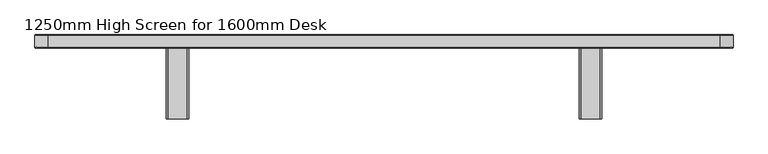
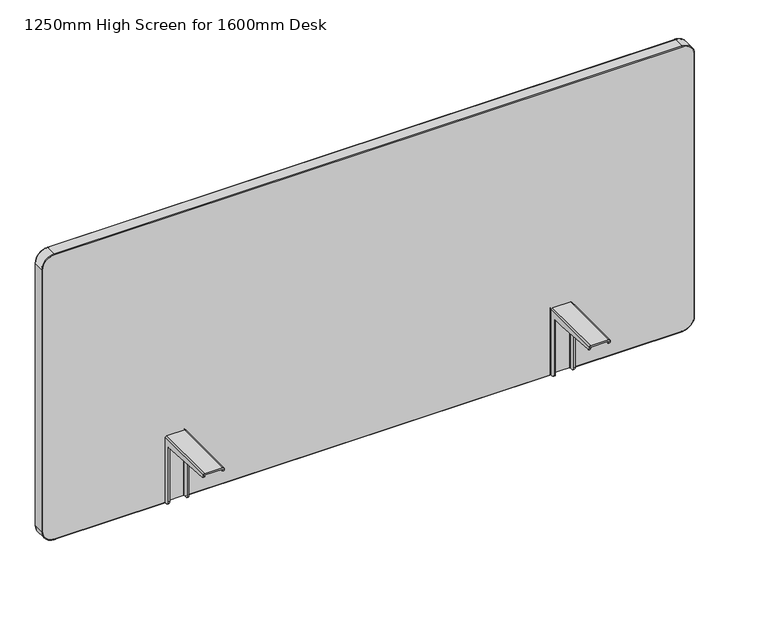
"""IFC4 building model written with IfcOpenShell, lengths in millimetres: furniture geometry, DBLTD_TheSenatorGroup_OffcDsks_Workbase_Single_FabricScreen : 1250mm High Screen for 1600mm Desk."""

from ifc_helpers import new_model, si_unit, point, frame, origin, place, context, project, spatial, polyline, circle_curve, ellipse_curve, trimmed, source, transform, mapped, element, save
from ifc_brep_helpers import plane_surface, cylinder_surface, revolved_surface, advanced_brep


def furniture_1250mm_high_screen_for_1600mm_desk_d27042e6(model_context):
    return source(origin(), model_context, "Body", "AdvancedBrep", [
        advanced_brep(
        [(515.4999924, 810.0117826, 692.2500534), (518.4999924, 810.0117826, 695.2500534), (562.4536863, 810.0117826, 695.2500534), (565.4536863, 810.0117826, 692.2500534), (565.4536863, 810.0117826, 527.4999888), (830.5, 810.0117826, 527.4999888), (858.5, 810.0117826, 555.4999888), (858.5, 810.0117826, 1219.9999888), (830.5, 810.0117826, 1247.9999888), (-675.5, 810.0117826, 1247.9999888), (-703.5, 810.0117826, 1219.9999888), (-703.5, 810.0117826, 555.4999888), (-675.5, 810.0117826, 527.4999888), (-410.4536863, 810.0117826, 527.4999888), (-410.4536863, 810.0117826, 692.2500534), (-407.4536863, 810.0117826, 695.2500534), (-363.4999924, 810.0117826, 695.2500534), (-360.4999924, 810.0117826, 692.2500534), (-360.4999924, 810.0117826, 527.4999888), (515.4999924, 810.0117826, 527.4999888), (858.5, 840.0117886, 555.4999888), (830.5, 840.0117886, 527.4999888), (-675.5, 840.0117886, 527.4999888), (-703.5, 840.0117886, 555.4999888), (-703.5, 840.0117886, 1219.9999888), (-675.5, 840.0117886, 1247.9999888), (830.5, 840.0117886, 1247.9999888), (858.5, 840.0117886, 1219.9999888), (830.5, 812.0117759, 1249.9999888), (830.5, 838.0117886, 1249.9999888), (-675.5, 838.0117886, 1249.9999888), (-675.5, 812.0117826, 1249.9999888), (-705.5, 838.0117886, 1219.9999888), (-705.5, 812.0117772, 1219.9999888), (-705.5, 838.0117886, 555.4999888), (-705.5, 812.0117826, 555.4999888), (-675.5, 838.0117886, 525.4999888), (-675.5, 812.0117813, 525.4999888), (830.5, 812.0117782, 525.4999888), (830.5, 838.0117886, 525.4999888), (860.5, 838.0117886, 555.4999888), (860.5, 812.0117789, 555.4999888), (860.5, 838.0117886, 1219.9999888), (860.5, 812.0117826, 1219.9999888), (565.4536863, 816.0117817, 525.4999888), (515.4999924, 816.0117817, 525.4999888), (515.4999924, 812.0117826, 525.4999888), (-360.4999924, 812.0117826, 525.4999888), (-360.4999924, 816.0117817, 525.4999888), (-410.4536863, 816.0117817, 525.4999888), (-410.4536863, 812.0117826, 525.4999888), (565.4536863, 812.0117826, 525.4999888), (565.4536863, 816.0117817, 692.2500534), (562.4536863, 816.0117817, 695.2500534), (518.4999924, 816.0117817, 695.2500534), (515.4999924, 816.0117817, 692.2500534), (-360.4999924, 816.0117817, 692.2500534), (-363.4999924, 816.0117817, 695.2500534), (-407.4536863, 816.0117817, 695.2500534), (-410.4536863, 816.0117817, 692.2500534)],
        [
            (0, 1, circle_curve(frame((518.4999924, 810.0117826, 692.2500534), z_axis=(0.0, 1.0, 0.0), x_axis=(-1.0, 0.0, 0.0)), 3.0)),
            (1, 2),
            (2, 3, circle_curve(frame((562.4536863, 810.0117826, 692.2500534), z_axis=(0.0, 1.0, 0.0), x_axis=(-1.0, 0.0, 0.0)), 3.0)),
            (3, 4),
            (4, 5),
            (5, 6, circle_curve(frame((830.5, 810.0117826, 555.4999888), z_axis=(0.0, -1.0, 0.0), x_axis=(0.0, 0.0, -1.0)), 28.0)),
            (6, 7),
            (7, 8, circle_curve(frame((830.5, 810.0117826, 1219.9999888), z_axis=(0.0, -1.0, 0.0), x_axis=(1.0, 0.0, 0.0)), 28.0)),
            (8, 9),
            (9, 10, circle_curve(frame((-675.5, 810.0117826, 1219.9999888), z_axis=(0.0, -1.0, 0.0), x_axis=(0.0, 0.0, 1.0)), 28.0)),
            (10, 11),
            (11, 12, circle_curve(frame((-675.5, 810.0117826, 555.4999888), z_axis=(0.0, -1.0, 0.0), x_axis=(-1.0, 0.0, 0.0)), 28.0)),
            (12, 13),
            (13, 14),
            (14, 15, circle_curve(frame((-407.4536863, 810.0117826, 692.2500534), z_axis=(0.0, 1.0, 0.0), x_axis=(1.0, 0.0, 0.0)), 3.0)),
            (15, 16),
            (16, 17, circle_curve(frame((-363.4999924, 810.0117826, 692.2500534), z_axis=(0.0, 1.0, 0.0), x_axis=(1.0, 0.0, 0.0)), 3.0)),
            (17, 18),
            (18, 19),
            (19, 0),
            (20, 21, circle_curve(frame((830.5, 840.0117886, 555.4999888), z_axis=(0.0, 1.0, 0.0), x_axis=(0.0, 0.0, -1.0)), 28.0)),
            (21, 22),
            (22, 23, circle_curve(frame((-675.5, 840.0117886, 555.4999888), z_axis=(0.0, 1.0, 0.0), x_axis=(-1.0, 0.0, 0.0)), 28.0)),
            (23, 24),
            (24, 25, circle_curve(frame((-675.5, 840.0117886, 1219.9999888), z_axis=(0.0, 1.0, 0.0), x_axis=(0.0, 0.0, 1.0)), 28.0)),
            (25, 26),
            (26, 27, circle_curve(frame((830.5, 840.0117886, 1219.9999888), z_axis=(0.0, 1.0, 0.0), x_axis=(1.0, 0.0, 0.0)), 28.0)),
            (27, 20),
            (28, 29),
            (29, 30),
            (30, 31),
            (31, 28),
            (30, 32, circle_curve(frame((-675.5, 838.0117886, 1219.9999888), z_axis=(0.0, -1.0, 0.0), x_axis=(1.0, 0.0, 0.0)), 30.0)),
            (32, 33),
            (33, 31, circle_curve(frame((-675.5, 812.0117826, 1219.9999888), z_axis=(0.0, 1.0, 0.0), x_axis=(1.0, 0.0, 0.0)), 30.0)),
            (32, 34),
            (34, 35),
            (35, 33),
            (34, 36, circle_curve(frame((-675.5, 838.0117886, 555.4999888), z_axis=(0.0, -1.0, 0.0), x_axis=(1.0, 0.0, 0.0)), 30.0)),
            (36, 37),
            (37, 35, circle_curve(frame((-675.5, 812.0117826, 555.4999888), z_axis=(0.0, 1.0, 0.0), x_axis=(1.0, 0.0, 0.0)), 30.0)),
            (38, 39),
            (39, 40, circle_curve(frame((830.5, 838.0117886, 555.4999888), z_axis=(0.0, -1.0, 0.0), x_axis=(1.0, 0.0, 0.0)), 30.0)),
            (40, 41),
            (41, 38, circle_curve(frame((830.5, 812.0117826, 555.4999888), z_axis=(0.0, 1.0, 0.0), x_axis=(1.0, 0.0, 0.0)), 30.0)),
            (40, 42),
            (42, 43),
            (43, 41),
            (28, 43, circle_curve(frame((830.5, 812.0117826, 1219.9999888), z_axis=(0.0, 1.0, 0.0), x_axis=(1.0, 0.0, 0.0)), 30.0)),
            (42, 29, circle_curve(frame((830.5, 838.0117886, 1219.9999888), z_axis=(0.0, -1.0, 0.0), x_axis=(1.0, 0.0, 0.0)), 30.0)),
            (44, 45),
            (45, 46),
            (46, 47),
            (47, 48),
            (48, 49),
            (49, 50),
            (50, 37),
            (36, 39),
            (38, 51),
            (51, 44),
            (44, 52),
            (52, 53, circle_curve(frame((562.4536863, 816.0117817, 692.2500534), z_axis=(0.0, -1.0, 0.0), x_axis=(-1.0, 0.0, 0.0)), 3.0)),
            (53, 54),
            (54, 55, circle_curve(frame((518.4999924, 816.0117817, 692.2500534), z_axis=(0.0, -1.0, 0.0), x_axis=(-1.0, 0.0, 0.0)), 3.0)),
            (55, 45),
            (55, 0),
            (19, 46, circle_curve(frame((515.4999924, 812.0117826, 527.4999888), z_axis=(1.0, 0.0, 0.0), x_axis=(0.0, 1.0, 0.0)), 2.0)),
            (54, 1),
            (53, 2),
            (52, 3),
            (51, 4, circle_curve(frame((565.4536863, 812.0117826, 527.4999888), z_axis=(-1.0, 0.0, 0.0), x_axis=(0.0, 1.0, 0.0)), 2.0)),
            (48, 56),
            (56, 57, circle_curve(frame((-363.4999924, 816.0117817, 692.2500534), z_axis=(0.0, -1.0, 0.0), x_axis=(1.0, 0.0, 0.0)), 3.0)),
            (57, 58),
            (58, 59, circle_curve(frame((-407.4536863, 816.0117817, 692.2500534), z_axis=(0.0, -1.0, 0.0), x_axis=(1.0, 0.0, 0.0)), 3.0)),
            (59, 49),
            (47, 18, circle_curve(frame((-360.4999924, 812.0117826, 527.4999888), z_axis=(-1.0, 0.0, 0.0), x_axis=(0.0, 1.0, 0.0)), 2.0)),
            (17, 56),
            (16, 57),
            (15, 58),
            (14, 59),
            (13, 50, circle_curve(frame((-410.4536863, 812.0117826, 527.4999888), z_axis=(1.0, 0.0, 0.0), x_axis=(0.0, 1.0, 0.0)), 2.0)),
            (41, 6, circle_curve(frame((858.5, 812.0117826, 555.4999888), z_axis=(0.0, 0.0, -1.0), x_axis=(0.0, -1.0, 0.0)), 2.0)),
            (5, 38, circle_curve(frame((830.5, 812.0117826, 527.4999888), z_axis=(1.0, 0.0, 0.0), x_axis=(0.0, -1.0, 0.0)), 2.0)),
            (43, 7, circle_curve(frame((858.5, 812.0117826, 1219.9999888), z_axis=(0.0, 0.0, -1.0), x_axis=(0.0, -1.0, 0.0)), 2.0)),
            (28, 8, circle_curve(frame((830.5, 812.0117826, 1247.9999888), z_axis=(1.0, 0.0, 0.0), x_axis=(0.0, -1.0, 0.0)), 2.0)),
            (31, 9, circle_curve(frame((-675.5, 812.0117826, 1247.9999888), z_axis=(1.0, 0.0, 0.0), x_axis=(0.0, -1.0, 0.0)), 2.0)),
            (33, 10, circle_curve(frame((-703.5, 812.0117826, 1219.9999888), z_axis=(0.0, 0.0, 1.0), x_axis=(0.0, -1.0, 0.0)), 2.0)),
            (35, 11, circle_curve(frame((-703.5, 812.0117826, 555.4999888), z_axis=(0.0, 0.0, 1.0), x_axis=(0.0, -1.0, 0.0)), 2.0)),
            (37, 12, circle_curve(frame((-675.5, 812.0117826, 527.4999888), z_axis=(-1.0, 0.0, 0.0), x_axis=(0.0, -1.0, 0.0)), 2.0)),
            (20, 40, circle_curve(frame((858.5, 838.0117886, 555.4999888), z_axis=(0.0, 0.0, -1.0), x_axis=(0.0, -1.0, 0.0)), 2.0)),
            (39, 21, circle_curve(frame((830.5, 838.0117886, 527.4999888), z_axis=(1.0, 0.0, 0.0), x_axis=(0.0, -1.0, 0.0)), 2.0)),
            (27, 42, circle_curve(frame((858.5, 838.0117886, 1219.9999888), z_axis=(0.0, 0.0, -1.0), x_axis=(0.0, -1.0, 0.0)), 2.0)),
            (26, 29, circle_curve(frame((830.5, 838.0117886, 1247.9999888), z_axis=(1.0, 0.0, 0.0), x_axis=(0.0, -1.0, 0.0)), 2.0)),
            (25, 30, circle_curve(frame((-675.5, 838.0117886, 1247.9999888), z_axis=(1.0, 0.0, 0.0), x_axis=(0.0, -1.0, 0.0)), 2.0)),
            (24, 32, circle_curve(frame((-703.5, 838.0117886, 1219.9999888), z_axis=(0.0, 0.0, 1.0), x_axis=(0.0, -1.0, 0.0)), 2.0)),
            (23, 34, circle_curve(frame((-703.5, 838.0117886, 555.4999888), z_axis=(0.0, 0.0, 1.0), x_axis=(0.0, -1.0, 0.0)), 2.0)),
            (22, 36, circle_curve(frame((-675.5, 838.0117886, 527.4999888), z_axis=(-1.0, 0.0, 0.0), x_axis=(0.0, -1.0, 0.0)), 2.0)),
        ],
        [
            plane_surface(frame((-675.5, 810.0117826, 1249.9999888), z_axis=(0.0, -1.0, 0.0), x_axis=(-1.0, 0.0, 0.0))),
            plane_surface(frame((-675.5, 840.0117886, 1249.9999888), z_axis=(0.0, 1.0, 0.0), x_axis=(1.0, 0.0, 0.0))),
            plane_surface(frame((830.5, 810.0117826, 1249.9999888), z_axis=(0.0, 0.0, 1.0), x_axis=(0.0, 1.0, 0.0))),
            cylinder_surface(frame((-675.5, 840.0117886, 1219.9999888), z_axis=(0.0, -1.0, 0.0), x_axis=(1.0, 0.0, 0.0)), 30.0),
            plane_surface(frame((-705.5, 810.0117826, 1219.9999888), z_axis=(-1.0, 0.0, 0.0), x_axis=(0.0, 1.0, 0.0))),
            cylinder_surface(frame((-675.5, 840.0117886, 555.4999888), z_axis=(0.0, -1.0, 0.0), x_axis=(1.0, 0.0, 0.0)), 30.0),
            cylinder_surface(frame((830.5, 840.0117886, 555.4999888), z_axis=(0.0, -1.0, 0.0), x_axis=(1.0, 0.0, 0.0)), 30.0),
            plane_surface(frame((860.5, 810.0117826, 555.4999888), z_axis=(1.0, 0.0, 0.0), x_axis=(0.0, 1.0, 0.0))),
            cylinder_surface(frame((830.5, 840.0117886, 1219.9999888), z_axis=(0.0, -1.0, 0.0), x_axis=(1.0, 0.0, 0.0)), 30.0),
            plane_surface(frame((-675.5, 810.0117826, 525.4999888), z_axis=(0.0, 0.0, -1.0), x_axis=(0.0, 1.0, 0.0))),
            plane_surface(frame((565.4536863, 816.0117817, 692.2500534), z_axis=(0.0, -1.0, 0.0), x_axis=(0.0, 0.0, -1.0))),
            plane_surface(frame((515.4999924, 810.0117826, 692.2500534), z_axis=(1.0, 0.0, 0.0), x_axis=(0.0, 1.0, 0.0))),
            revolved_surface(polyline([(515.4999924, 810.0117826, 692.2500534), (515.4999924, 816.0117817, 692.2500534)]), (518.4999924, 816.0117817, 692.2500534), (0.0, -1.0, 0.0)),
            plane_surface(frame((562.4536863, 810.0117826, 695.2500534), z_axis=(0.0, 0.0, -1.0), x_axis=(0.0, 1.0, 0.0))),
            revolved_surface(polyline([(559.4536863, 810.0117826, 692.2500534), (559.4536863, 816.0117817, 692.2500534)]), (562.4536863, 816.0117817, 692.2500534), (0.0, -1.0, 0.0)),
            plane_surface(frame((565.4536863, 810.0117826, 525.4999888), z_axis=(-1.0, 0.0, 0.0), x_axis=(0.0, 1.0, 0.0))),
            plane_surface(frame((-410.4536863, 816.0117817, 525.4999888), z_axis=(0.0, -1.0, 0.0), x_axis=(-1.0, 0.0, 0.0))),
            plane_surface(frame((-360.4999924, 810.0117826, 525.4999888), z_axis=(-1.0, 0.0, 0.0), x_axis=(0.0, 1.0, 0.0))),
            revolved_surface(polyline([(-360.4999924, 810.0117826, 692.2500534), (-360.4999924, 816.0117817, 692.2500534)]), (-363.4999924, 816.0117817, 692.2500534), (0.0, -1.0, 0.0)),
            plane_surface(frame((-363.4999924, 810.0117826, 695.2500534), z_axis=(0.0, 0.0, -1.0), x_axis=(0.0, 1.0, 0.0))),
            revolved_surface(polyline([(-404.4536863, 810.0117826, 692.2500534), (-404.4536863, 816.0117817, 692.2500534)]), (-407.4536863, 816.0117817, 692.2500534), (0.0, -1.0, 0.0)),
            plane_surface(frame((-410.4536863, 810.0117826, 692.2500534), z_axis=(1.0, 0.0, 0.0), x_axis=(0.0, 1.0, 0.0))),
            revolved_surface(trimmed(ellipse_curve(frame((830.5, 812.0117826, 527.4999888), z_axis=(-1.0, 0.0, 0.0), x_axis=(0.0, -1.0, 0.0)), 2.0, 2.0), [point((830.5, 812.0117826, 525.4999888))], [point((830.5, 810.0117826, 527.4999888))], True, "CARTESIAN"), (830.5, 810.0117826, 555.4999888), (0.0, -1.0, 0.0)),
            cylinder_surface(frame((858.5, 812.0117826, 555.4999888), z_axis=(0.0, 0.0, 1.0), x_axis=(0.0, -1.0, 0.0)), 2.0),
            revolved_surface(trimmed(ellipse_curve(frame((858.5, 812.0117826, 1219.9999888), z_axis=(0.0, 0.0, -1.0), x_axis=(0.0, -1.0, 0.0)), 2.0, 2.0), [point((860.5, 812.0117826, 1219.9999888))], [point((858.5, 810.0117826, 1219.9999888))], True, "CARTESIAN"), (830.5, 810.0117826, 1219.9999888), (0.0, -1.0, 0.0)),
            cylinder_surface(frame((830.5, 812.0117826, 1247.9999888), z_axis=(-1.0, 0.0, 0.0), x_axis=(0.0, -1.0, 0.0)), 2.0),
            revolved_surface(trimmed(ellipse_curve(frame((-675.5, 812.0117826, 1247.9999888), z_axis=(1.0, 0.0, 0.0), x_axis=(0.0, -1.0, 0.0)), 2.0, 2.0), [point((-675.5, 812.0117826, 1249.9999888))], [point((-675.5, 810.0117826, 1247.9999888))], True, "CARTESIAN"), (-675.5, 810.0117826, 1219.9999888), (0.0, -1.0, 0.0)),
            cylinder_surface(frame((-703.5, 812.0117826, 1219.9999888), z_axis=(0.0, 0.0, -1.0), x_axis=(0.0, -1.0, 0.0)), 2.0),
            revolved_surface(trimmed(ellipse_curve(frame((-703.5, 812.0117826, 555.4999888), z_axis=(0.0, 0.0, 1.0), x_axis=(0.0, -1.0, 0.0)), 2.0, 2.0), [point((-705.5, 812.0117826, 555.4999888))], [point((-703.5, 810.0117826, 555.4999888))], True, "CARTESIAN"), (-675.5, 810.0117826, 555.4999888), (0.0, -1.0, 0.0)),
            revolved_surface(trimmed(ellipse_curve(frame((830.5, 838.0117886, 527.4999888), z_axis=(-1.0, 0.0, 0.0), x_axis=(0.0, -1.0, 0.0)), 2.0, 2.0), [point((830.5, 840.0117886, 527.4999888))], [point((830.5, 838.0117886, 525.4999888))], True, "CARTESIAN"), (830.5, 810.0117826, 555.4999888), (0.0, -1.0, 0.0)),
            cylinder_surface(frame((858.5, 838.0117886, 555.4999888), z_axis=(0.0, 0.0, 1.0), x_axis=(0.0, -1.0, 0.0)), 2.0),
            revolved_surface(trimmed(ellipse_curve(frame((858.5, 838.0117886, 1219.9999888), z_axis=(0.0, 0.0, -1.0), x_axis=(0.0, -1.0, 0.0)), 2.0, 2.0), [point((858.5, 840.0117886, 1219.9999888))], [point((860.5, 838.0117886, 1219.9999888))], True, "CARTESIAN"), (830.5, 810.0117826, 1219.9999888), (0.0, -1.0, 0.0)),
            cylinder_surface(frame((830.5, 838.0117886, 1247.9999888), z_axis=(-1.0, 0.0, 0.0), x_axis=(0.0, -1.0, 0.0)), 2.0),
            revolved_surface(trimmed(ellipse_curve(frame((-675.5, 838.0117886, 1247.9999888), z_axis=(1.0, 0.0, 0.0), x_axis=(0.0, -1.0, 0.0)), 2.0, 2.0), [point((-675.5, 840.0117886, 1247.9999888))], [point((-675.5, 838.0117886, 1249.9999888))], True, "CARTESIAN"), (-675.5, 810.0117826, 1219.9999888), (0.0, -1.0, 0.0)),
            cylinder_surface(frame((-703.5, 838.0117886, 1219.9999888), z_axis=(0.0, 0.0, -1.0), x_axis=(0.0, -1.0, 0.0)), 2.0),
            revolved_surface(trimmed(ellipse_curve(frame((-703.5, 838.0117886, 555.4999888), z_axis=(0.0, 0.0, 1.0), x_axis=(0.0, -1.0, 0.0)), 2.0, 2.0), [point((-703.5, 840.0117886, 555.4999888))], [point((-705.5, 838.0117886, 555.4999888))], True, "CARTESIAN"), (-675.5, 810.0117826, 555.4999888), (0.0, -1.0, 0.0)),
            cylinder_surface(frame((-675.5, 838.0117886, 527.4999888), z_axis=(-1.0, 0.0, 0.0), x_axis=(0.0, 1.0, 0.0)), 2.0),
            cylinder_surface(frame((0.0, 812.0117826, 527.4999888), z_axis=(-1.0, 0.0, 0.0), x_axis=(0.0, 1.0, 0.0)), 2.0),
        ],
        [
            (0, [[1, 2, 3, 4, 5, 6, 7, 8, 9, 10, 11, 12, 13, 14, 15, 16, 17, 18, 19, 20]]),
            (1, [[21, 22, 23, 24, 25, 26, 27, 28]]),
            (2, [[29, 30, 31, 32]]),
            (3, [[-31, 33, 34, 35]]),
            (4, [[-34, 36, 37, 38]]),
            (5, [[-37, 39, 40, 41]]),
            (6, [[42, 43, 44, 45]]),
            (7, [[-44, 46, 47, 48]]),
            (8, [[-29, 49, -47, 50]]),
            (9, [[51, 52, 53, 54, 55, 56, 57, -40, 58, -42, 59, 60]]),
            (10, [[61, 62, 63, 64, 65, -51]]),
            (11, [[-65, 66, -20, 67, -52]]),
            (12, [[-64, 68, -1, -66]]),
            (13, [[-63, 69, -2, -68]]),
            (14, [[-62, 70, -3, -69]]),
            (15, [[-61, -60, 71, -4, -70]]),
            (16, [[72, 73, 74, 75, 76, -55]]),
            (17, [[-72, -54, 77, -18, 78]]),
            (18, [[-73, -78, -17, 79]]),
            (19, [[-74, -79, -16, 80]]),
            (20, [[-75, -80, -15, 81]]),
            (21, [[-76, -81, -14, 82, -56]]),
            (22, [[83, -6, 84, -45]]),
            (23, [[-83, -48, 85, -7]]),
            (24, [[-85, -49, 86, -8]]),
            (25, [[-86, -32, 87, -9]]),
            (26, [[-87, -35, 88, -10]]),
            (27, [[-88, -38, 89, -11]]),
            (28, [[-89, -41, 90, -12]]),
            (29, [[91, -43, 92, -21]]),
            (30, [[-91, -28, 93, -46]]),
            (31, [[-93, -27, 94, -50]]),
            (32, [[-94, -26, 95, -30]]),
            (33, [[-95, -25, 96, -33]]),
            (34, [[-96, -24, 97, -36]]),
            (35, [[-97, -23, 98, -39]]),
            (36, [[-22, -92, -58, -98]]),
            (37, [[-5, -71, -59, -84]]),
            (37, [[-13, -90, -57, -82]]),
            (37, [[-19, -77, -53, -67]]),
        ],
    ),
        advanced_brep(
        [(562.4536863, 806.1752329, 527.2500539), (565.4536863, 806.1752329, 527.2500539), (565.4536863, 796.1752329, 537.2500539), (562.4536863, 796.1752329, 537.2500539), (515.4999924, 806.1752329, 527.2500539), (518.4999924, 806.1752329, 527.2500539), (518.4999924, 797.3929828, 532.4675772), (515.4999924, 797.3929828, 532.4675772), (518.4999924, 655.6318851, 684.9797332), (515.4999924, 655.6318851, 684.9797332), (515.4999924, 765.1939716, 676.6312545), (518.4999924, 765.1939716, 676.6312545), (565.4536863, 655.6318851, 684.9797332), (562.4536863, 655.6318851, 684.9797332), (562.4536863, 781.1752329, 675.4135046), (565.4536863, 781.1752329, 675.4135046), (518.4999924, 651.0117769, 689.9652805), (515.4999924, 651.0117769, 689.9652805), (565.4536863, 651.0117769, 689.9652805), (562.4536863, 651.0117769, 689.9652805), (518.4999924, 816.0117817, 527.2500539), (562.4536863, 816.0117817, 527.2500539), (565.4536863, 813.0117817, 527.2500539), (562.4536863, 812.0117817, 527.2500539), (561.4536863, 813.0117817, 527.2500539), (519.4999924, 813.0117817, 527.2500539), (518.4999924, 812.0117817, 527.2500539), (515.4999924, 813.0117817, 527.2500539), (515.4999924, 813.0117817, 692.2500534), (518.4999924, 816.0117817, 695.2500534), (515.4999924, 797.3929828, 676.6312545), (515.4999924, 651.0117769, 692.2500534), (518.4999924, 797.3929828, 676.6312545), (518.4999924, 812.0117817, 691.2500534), (518.4999924, 651.0117769, 691.2500534), (519.4999924, 813.0117817, 692.2500534), (561.4536863, 813.0117817, 692.2500534), (562.4536863, 812.0117817, 691.2500534), (562.4536863, 796.1752329, 675.4135046), (562.4536863, 651.0117769, 691.2500534), (565.4536863, 796.1752329, 675.4135046), (565.4536863, 813.0117817, 692.2500534), (565.4536863, 651.0117769, 692.2500534), (562.4536863, 816.0117817, 695.2500534), (518.4999924, 651.0117769, 695.2500534), (519.4999924, 651.0117769, 692.2500534), (561.4536863, 651.0117769, 692.2500534), (562.4536863, 651.0117769, 695.2500534)],
        [
            (0, 1),
            (1, 2, circle_curve(frame((565.4536863, 806.1752329, 537.2500539), z_axis=(-1.0, 0.0, 0.0), x_axis=(0.0, 1.0, 0.0)), 10.0)),
            (2, 3),
            (3, 0, circle_curve(frame((562.4536863, 806.1752329, 537.2500539), z_axis=(1.0, 0.0, 0.0), x_axis=(0.0, 1.0, 0.0)), 10.0)),
            (4, 5),
            (5, 6, circle_curve(frame((518.4999924, 806.1752329, 537.2500539), z_axis=(-1.0, 0.0, 0.0), x_axis=(0.0, 1.0, 0.0)), 10.0)),
            (6, 7),
            (7, 4, circle_curve(frame((515.4999924, 806.1752329, 537.2500539), z_axis=(1.0, 0.0, 0.0), x_axis=(0.0, 1.0, 0.0)), 10.0)),
            (8, 9),
            (9, 10),
            (10, 11),
            (11, 8),
            (12, 13),
            (13, 14),
            (14, 15),
            (15, 12),
            (8, 16, circle_curve(frame((518.4999924, 656.0117769, 689.9652805), z_axis=(-1.0, 0.0, 0.0), x_axis=(0.0, 1.0, 0.0)), 5.0)),
            (16, 17),
            (17, 9, circle_curve(frame((515.4999924, 656.0117769, 689.9652805), z_axis=(1.0, 0.0, 0.0), x_axis=(0.0, 1.0, 0.0)), 5.0)),
            (12, 18, circle_curve(frame((565.4536863, 656.0117769, 689.9652805), z_axis=(-1.0, 0.0, 0.0), x_axis=(0.0, 1.0, 0.0)), 5.0)),
            (18, 19),
            (19, 13, circle_curve(frame((562.4536863, 656.0117769, 689.9652805), z_axis=(1.0, 0.0, 0.0), x_axis=(0.0, 1.0, 0.0)), 5.0)),
            (20, 21),
            (21, 22, circle_curve(frame((562.4536863, 813.0117817, 527.2500539), z_axis=(0.0, 0.0, -1.0), x_axis=(0.0, 1.0, 0.0)), 3.0)),
            (22, 1),
            (0, 23),
            (23, 24, circle_curve(frame((561.4536863, 812.0117817, 527.2500539), z_axis=(0.0, 0.0, 1.0), x_axis=(0.0, 1.0, 0.0)), 1.0)),
            (24, 25),
            (25, 26, circle_curve(frame((519.4999924, 812.0117817, 527.2500539), z_axis=(0.0, 0.0, 1.0), x_axis=(0.0, 1.0, 0.0)), 1.0)),
            (26, 5),
            (4, 27),
            (27, 20, circle_curve(frame((518.4999924, 813.0117817, 527.2500539), z_axis=(0.0, 0.0, -1.0), x_axis=(0.0, 1.0, 0.0)), 3.0)),
            (27, 28),
            (28, 29, ellipse_curve(frame((518.4999924, 813.0117817, 692.2500534), z_axis=(0.0, 0.7071067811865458, -0.7071067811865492), x_axis=(0.0, -0.7071067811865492, -0.7071067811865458)), 4.2426407, 3.0)),
            (29, 20),
            (7, 30),
            (30, 10),
            (17, 31),
            (31, 28),
            (32, 30),
            (6, 32),
            (26, 33),
            (33, 34),
            (34, 16),
            (11, 32),
            (25, 35),
            (35, 33, ellipse_curve(frame((519.4999924, 812.0117817, 691.2500534), z_axis=(0.0, -0.7071067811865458, 0.7071067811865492), x_axis=(0.0, 0.7071067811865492, 0.7071067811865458)), 1.4142136, 1.0)),
            (24, 36),
            (36, 35),
            (23, 37),
            (37, 36, ellipse_curve(frame((561.4536863, 812.0117817, 691.2500534), z_axis=(0.0, -0.7071067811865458, 0.7071067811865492), x_axis=(0.0, 0.7071067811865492, 0.7071067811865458)), 1.4142136, 1.0)),
            (3, 38),
            (38, 14),
            (19, 39),
            (39, 37),
            (40, 38),
            (2, 40),
            (22, 41),
            (41, 42),
            (42, 18),
            (15, 40),
            (21, 43),
            (43, 41, ellipse_curve(frame((562.4536863, 813.0117817, 692.2500534), z_axis=(0.0, 0.7071067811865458, -0.7071067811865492), x_axis=(0.0, -0.7071067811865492, -0.7071067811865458)), 4.2426407, 3.0)),
            (29, 43),
            (44, 31, circle_curve(frame((518.4999924, 651.0117769, 692.2500534), z_axis=(0.0, -1.0, 0.0), x_axis=(0.0, 0.0, 1.0)), 3.0)),
            (34, 45, circle_curve(frame((519.4999924, 651.0117769, 691.2500534), z_axis=(0.0, 1.0, 0.0), x_axis=(0.0, 0.0, 1.0)), 1.0)),
            (45, 46),
            (46, 39, circle_curve(frame((561.4536863, 651.0117769, 691.2500534), z_axis=(0.0, 1.0, 0.0), x_axis=(0.0, 0.0, 1.0)), 1.0)),
            (42, 47, circle_curve(frame((562.4536863, 651.0117769, 692.2500534), z_axis=(0.0, -1.0, 0.0), x_axis=(0.0, 0.0, 1.0)), 3.0)),
            (47, 44),
            (44, 29),
            (35, 45),
            (36, 46),
            (43, 47),
        ],
        [
            cylinder_surface(frame((-740.423954, 806.1752329, 537.2500539), z_axis=(-1.0, 0.0, 0.0), x_axis=(0.0, 1.0, 0.0)), 10.0),
            plane_surface(frame((895.423954, 781.1752329, 675.4135046), z_axis=(0.0, -0.07597835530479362, -0.9971094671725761), x_axis=(-1.0, 0.0, 0.0))),
            cylinder_surface(frame((0.0, 656.0117769, 689.9652805), z_axis=(-1.0, 0.0, 0.0), x_axis=(0.0, 1.0, 0.0)), 5.0),
            plane_surface(frame((155.0, 816.0117817, 527.2500539), z_axis=(0.0, 0.0, -1.0), x_axis=(-1.0, 0.0, 0.0))),
            cylinder_surface(frame((518.4999924, 813.0117817, 527.2500539), z_axis=(0.0, 0.0, -1.0), x_axis=(0.0, 1.0, 0.0)), 3.0),
            plane_surface(frame((515.4999924, 797.3929828, 527.2500539), z_axis=(-1.0, 0.0, 0.0), x_axis=(0.0, 0.0, 1.0))),
            plane_surface(frame((518.4999924, 797.3929828, 527.2500539), z_axis=(0.0, -1.0, 0.0), x_axis=(0.0, 0.0, 1.0))),
            plane_surface(frame((518.4999924, 812.0117817, 527.2500539), z_axis=(1.0, 0.0, 0.0), x_axis=(0.0, 0.0, 1.0))),
            revolved_surface(polyline([(519.4999924, 813.0117817, 692.2500534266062), (519.4999924, 813.0117817, 527.2500539)]), (519.4999924, 812.0117817, 527.2500539), (0.0, 0.0, 1.0)),
            plane_surface(frame((561.4536863, 813.0117817, 527.2500539), z_axis=(0.0, -1.0, 0.0), x_axis=(0.0, 0.0, 1.0))),
            revolved_surface(polyline([(561.4536863, 813.0117817, 692.2500534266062), (561.4536863, 813.0117817, 527.2500539)]), (561.4536863, 812.0117817, 527.2500539), (0.0, 0.0, 1.0)),
            plane_surface(frame((562.4536863, 796.1752329, 527.2500539), z_axis=(-1.0, 0.0, 0.0), x_axis=(0.0, 0.0, 1.0))),
            plane_surface(frame((565.4536863, 796.1752329, 527.2500539), z_axis=(0.0, -1.0, 0.0), x_axis=(0.0, 0.0, 1.0))),
            plane_surface(frame((565.4536863, 813.0117817, 527.2500539), z_axis=(1.0, 0.0, 0.0), x_axis=(0.0, 0.0, 1.0))),
            cylinder_surface(frame((562.4536863, 813.0117817, 527.2500539), z_axis=(0.0, 0.0, -1.0), x_axis=(0.0, 1.0, 0.0)), 3.0),
            plane_surface(frame((518.4999924, 816.0117817, 527.2500539), z_axis=(0.0, 1.0, 0.0), x_axis=(0.0, 0.0, 1.0))),
            plane_surface(frame((155.0, 651.0117769, 695.2500534), z_axis=(0.0, -1.0, 0.0), x_axis=(-1.0, 0.0, 0.0))),
            cylinder_surface(frame((518.4999924, 816.0117817, 692.2500534), z_axis=(0.0, 1.0, 0.0), x_axis=(0.0, 0.0, 1.0)), 3.0),
            plane_surface(frame((518.4999924, 797.3929828, 676.6312545), z_axis=(0.0, 0.0, -1.0), x_axis=(0.0, -1.0, 0.0))),
            revolved_surface(polyline([(519.4999924, 651.0117769, 692.2500534), (519.4999924, 813.0117817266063, 692.2500534)]), (519.4999924, 816.0117817, 691.2500534), (0.0, -1.0, 0.0)),
            plane_surface(frame((561.4536863, 813.0117817, 692.2500534), z_axis=(0.0, 0.0, -1.0), x_axis=(0.0, -1.0, 0.0))),
            revolved_surface(polyline([(561.4536863, 651.0117769, 692.2500534), (561.4536863, 813.0117817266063, 692.2500534)]), (561.4536863, 816.0117817, 691.2500534), (0.0, -1.0, 0.0)),
            plane_surface(frame((565.4536863, 796.1752329, 675.4135046), z_axis=(0.0, 0.0, -1.0), x_axis=(0.0, -1.0, 0.0))),
            cylinder_surface(frame((562.4536863, 816.0117817, 692.2500534), z_axis=(0.0, 1.0, 0.0), x_axis=(0.0, 0.0, 1.0)), 3.0),
            plane_surface(frame((518.4999924, 816.0117817, 695.2500534), z_axis=(0.0, 0.0, 1.0), x_axis=(0.0, -1.0, 0.0))),
        ],
        [
            (0, [[1, 2, 3, 4]]),
            (0, [[5, 6, 7, 8]]),
            (1, [[9, 10, 11, 12]]),
            (1, [[13, 14, 15, 16]]),
            (2, [[-9, 17, 18, 19]]),
            (2, [[-13, 20, 21, 22]]),
            (3, [[23, 24, 25, -1, 26, 27, 28, 29, 30, -5, 31, 32]]),
            (4, [[-32, 33, 34, 35]]),
            (5, [[-33, -31, -8, 36, 37, -10, -19, 38, 39]]),
            (6, [[40, -36, -7, 41]]),
            (7, [[42, 43, 44, -17, -12, 45, -41, -6, -30]]),
            (8, [[-29, 46, 47, -42]]),
            (9, [[-28, 48, 49, -46]]),
            (10, [[-27, 50, 51, -48]]),
            (11, [[-50, -26, -4, 52, 53, -14, -22, 54, 55]]),
            (12, [[56, -52, -3, 57]]),
            (13, [[58, 59, 60, -20, -16, 61, -57, -2, -25]]),
            (14, [[-24, 62, 63, -58]]),
            (15, [[-23, -35, 64, -62]]),
            (16, [[65, -38, -18, -44, 66, 67, 68, -54, -21, -60, 69, 70]]),
            (17, [[-34, -39, -65, 71]]),
            (18, [[-40, -45, -11, -37]]),
            (19, [[-43, -47, 72, -66]]),
            (20, [[-49, 73, -67, -72]]),
            (21, [[-51, -55, -68, -73]]),
            (22, [[-56, -61, -15, -53]]),
            (23, [[-59, -63, 74, -69]]),
            (24, [[-64, -71, -70, -74]]),
        ],
    ),
        advanced_brep(
        [(-363.4999924, 816.0117817, 527.2500539), (-360.4999924, 813.0117817, 527.2500539), (-360.4999924, 806.1752329, 527.2500539), (-363.4999924, 806.1752329, 527.2500539), (-363.4999924, 812.0117817, 527.2500539), (-364.4999924, 813.0117817, 527.2500539), (-406.4536863, 813.0117817, 527.2500539), (-407.4536863, 812.0117817, 527.2500539), (-407.4536863, 806.1752329, 527.2500539), (-410.4536863, 806.1752329, 527.2500539), (-410.4536863, 813.0117817, 527.2500539), (-407.4536863, 816.0117817, 527.2500539), (-363.4999924, 816.0117817, 695.2500534), (-360.4999924, 813.0117817, 692.2500534), (-360.4999924, 651.0117769, 692.2500534), (-360.4999924, 651.0117769, 689.9652805), (-360.4999924, 655.6318851, 684.9797332), (-360.4999924, 765.1939716, 676.6312545), (-360.4999924, 797.3929828, 676.6312545), (-360.4999924, 797.3929828, 532.4675772), (-363.4999924, 797.3929828, 676.6312545), (-363.4999924, 797.3929828, 532.4675772), (-363.4999924, 651.0117769, 691.2500534), (-363.4999924, 812.0117817, 691.2500534), (-363.4999924, 765.1939716, 676.6312545), (-363.4999924, 655.6318851, 684.9797332), (-363.4999924, 651.0117769, 689.9652805), (-364.4999924, 813.0117817, 692.2500534), (-406.4536863, 813.0117817, 692.2500534), (-407.4536863, 812.0117817, 691.2500534), (-407.4536863, 651.0117769, 691.2500534), (-407.4536863, 651.0117769, 689.9652805), (-407.4536863, 655.6318851, 684.9797332), (-407.4536863, 781.1752329, 675.4135046), (-407.4536863, 796.1752329, 675.4135046), (-407.4536863, 796.1752329, 537.2500539), (-410.4536863, 796.1752329, 675.4135046), (-410.4536863, 796.1752329, 537.2500539), (-410.4536863, 651.0117769, 692.2500534), (-410.4536863, 813.0117817, 692.2500534), (-410.4536863, 781.1752329, 675.4135046), (-410.4536863, 655.6318851, 684.9797332), (-410.4536863, 651.0117769, 689.9652805), (-407.4536863, 816.0117817, 695.2500534), (-363.4999924, 651.0117769, 695.2500534), (-407.4536863, 651.0117769, 695.2500534), (-406.4536863, 651.0117769, 692.2500534), (-364.4999924, 651.0117769, 692.2500534)],
        [
            (0, 1, circle_curve(frame((-363.4999924, 813.0117817, 527.2500539), z_axis=(0.0, 0.0, -1.0), x_axis=(0.0, -1.0, 0.0)), 3.0)),
            (1, 2),
            (2, 3),
            (3, 4),
            (4, 5, circle_curve(frame((-364.4999924, 812.0117817, 527.2500539), z_axis=(0.0, 0.0, 1.0), x_axis=(0.0, -1.0, 0.0)), 1.0)),
            (5, 6),
            (6, 7, circle_curve(frame((-406.4536863, 812.0117817, 527.2500539), z_axis=(0.0, 0.0, 1.0), x_axis=(0.0, -1.0, 0.0)), 1.0)),
            (7, 8),
            (8, 9),
            (9, 10),
            (10, 11, circle_curve(frame((-407.4536863, 813.0117817, 527.2500539), z_axis=(0.0, 0.0, -1.0), x_axis=(0.0, -1.0, 0.0)), 3.0)),
            (11, 0),
            (0, 12),
            (12, 13, ellipse_curve(frame((-363.4999924, 813.0117817, 692.2500534), z_axis=(0.0, 0.7071067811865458, -0.7071067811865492), x_axis=(0.0, -0.7071067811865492, -0.7071067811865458)), 4.2426407, 3.0)),
            (13, 1),
            (13, 14),
            (14, 15),
            (15, 16, circle_curve(frame((-360.4999924, 656.0117769, 689.9652805), z_axis=(1.0, 0.0, 0.0), x_axis=(0.0, 1.0, 0.0)), 5.0)),
            (16, 17),
            (17, 18),
            (18, 19),
            (19, 2, circle_curve(frame((-360.4999924, 806.1752329, 537.2500539), z_axis=(1.0, 0.0, 0.0), x_axis=(0.0, 1.0, 0.0)), 10.0)),
            (18, 20),
            (20, 21),
            (21, 19),
            (22, 23),
            (23, 4),
            (3, 21, circle_curve(frame((-363.4999924, 806.1752329, 537.2500539), z_axis=(-1.0, 0.0, 0.0), x_axis=(0.0, 1.0, 0.0)), 10.0)),
            (20, 24),
            (24, 25),
            (25, 26, circle_curve(frame((-363.4999924, 656.0117769, 689.9652805), z_axis=(-1.0, 0.0, 0.0), x_axis=(0.0, 1.0, 0.0)), 5.0)),
            (26, 22),
            (23, 27, ellipse_curve(frame((-364.4999924, 812.0117817, 691.2500534), z_axis=(0.0, -0.7071067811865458, 0.7071067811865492), x_axis=(0.0, 0.7071067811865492, 0.7071067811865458)), 1.4142136, 1.0)),
            (27, 5),
            (27, 28),
            (28, 6),
            (28, 29, ellipse_curve(frame((-406.4536863, 812.0117817, 691.2500534), z_axis=(0.0, -0.7071067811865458, 0.7071067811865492), x_axis=(0.0, 0.7071067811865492, 0.7071067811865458)), 1.4142136, 1.0)),
            (29, 7),
            (29, 30),
            (30, 31),
            (31, 32, circle_curve(frame((-407.4536863, 656.0117769, 689.9652805), z_axis=(1.0, 0.0, 0.0), x_axis=(0.0, 1.0, 0.0)), 5.0)),
            (32, 33),
            (33, 34),
            (34, 35),
            (35, 8, circle_curve(frame((-407.4536863, 806.1752329, 537.2500539), z_axis=(1.0, 0.0, 0.0), x_axis=(0.0, 1.0, 0.0)), 10.0)),
            (34, 36),
            (36, 37),
            (37, 35),
            (38, 39),
            (39, 10),
            (9, 37, circle_curve(frame((-410.4536863, 806.1752329, 537.2500539), z_axis=(-1.0, 0.0, 0.0), x_axis=(0.0, 1.0, 0.0)), 10.0)),
            (36, 40),
            (40, 41),
            (41, 42, circle_curve(frame((-410.4536863, 656.0117769, 689.9652805), z_axis=(-1.0, 0.0, 0.0), x_axis=(0.0, 1.0, 0.0)), 5.0)),
            (42, 38),
            (39, 43, ellipse_curve(frame((-407.4536863, 813.0117817, 692.2500534), z_axis=(0.0, 0.7071067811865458, -0.7071067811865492), x_axis=(0.0, -0.7071067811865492, -0.7071067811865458)), 4.2426407, 3.0)),
            (43, 11),
            (43, 12),
            (44, 45),
            (45, 38, circle_curve(frame((-407.4536863, 651.0117769, 692.2500534), z_axis=(0.0, -1.0, 0.0), x_axis=(0.0, 0.0, -1.0)), 3.0)),
            (42, 31),
            (30, 46, circle_curve(frame((-406.4536863, 651.0117769, 691.2500534), z_axis=(0.0, 1.0, 0.0), x_axis=(0.0, 0.0, -1.0)), 1.0)),
            (46, 47),
            (47, 22, circle_curve(frame((-364.4999924, 651.0117769, 691.2500534), z_axis=(0.0, 1.0, 0.0), x_axis=(0.0, 0.0, -1.0)), 1.0)),
            (26, 15),
            (14, 44, circle_curve(frame((-363.4999924, 651.0117769, 692.2500534), z_axis=(0.0, -1.0, 0.0), x_axis=(0.0, 0.0, -1.0)), 3.0)),
            (12, 44),
            (17, 24),
            (47, 27),
            (46, 28),
            (33, 40),
            (45, 43),
            (16, 25),
            (32, 41),
        ],
        [
            plane_surface(frame((0.0, 816.0117817, 527.2500539), z_axis=(0.0, 0.0, -1.0), x_axis=(1.0, 0.0, 0.0))),
            cylinder_surface(frame((-363.4999924, 813.0117817, 527.2500539), z_axis=(0.0, 0.0, -1.0), x_axis=(0.0, -1.0, 0.0)), 3.0),
            plane_surface(frame((-360.4999924, 813.0117817, 527.2500539), z_axis=(1.0, 0.0, 0.0), x_axis=(0.0, 0.0, 1.0))),
            plane_surface(frame((-360.4999924, 797.3929828, 527.2500539), z_axis=(0.0, -1.0, 0.0), x_axis=(0.0, 0.0, 1.0))),
            plane_surface(frame((-363.4999924, 797.3929828, 527.2500539), z_axis=(-1.0, 0.0, 0.0), x_axis=(0.0, 0.0, 1.0))),
            revolved_surface(polyline([(-364.4999924, 811.0117817, 692.2500534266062), (-364.4999924, 811.0117817, 527.2500539)]), (-364.4999924, 812.0117817, 527.2500539), (0.0, 0.0, 1.0)),
            plane_surface(frame((-364.4999924, 813.0117817, 527.2500539), z_axis=(0.0, -1.0, 0.0), x_axis=(0.0, 0.0, 1.0))),
            revolved_surface(polyline([(-406.4536863, 811.0117817, 692.2500534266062), (-406.4536863, 811.0117817, 527.2500539)]), (-406.4536863, 812.0117817, 527.2500539), (0.0, 0.0, 1.0)),
            plane_surface(frame((-407.4536863, 812.0117817, 527.2500539), z_axis=(1.0, 0.0, 0.0), x_axis=(0.0, 0.0, 1.0))),
            plane_surface(frame((-407.4536863, 796.1752329, 527.2500539), z_axis=(0.0, -1.0, 0.0), x_axis=(0.0, 0.0, 1.0))),
            plane_surface(frame((-410.4536863, 796.1752329, 527.2500539), z_axis=(-1.0, 0.0, 0.0), x_axis=(0.0, 0.0, 1.0))),
            cylinder_surface(frame((-407.4536863, 813.0117817, 527.2500539), z_axis=(0.0, 0.0, -1.0), x_axis=(0.0, -1.0, 0.0)), 3.0),
            plane_surface(frame((-407.4536863, 816.0117817, 527.2500539), z_axis=(0.0, 1.0, 0.0), x_axis=(0.0, 0.0, 1.0))),
            plane_surface(frame((0.0, 651.0117769, 695.2500534), z_axis=(0.0, -1.0, 0.0), x_axis=(1.0, 0.0, 0.0))),
            cylinder_surface(frame((-363.4999924, 816.0117817, 692.2500534), z_axis=(0.0, 1.0, 0.0), x_axis=(0.0, 0.0, -1.0)), 3.0),
            plane_surface(frame((-360.4999924, 797.3929828, 676.6312545), z_axis=(0.0, 0.0, -1.0), x_axis=(0.0, -1.0, 0.0))),
            revolved_surface(polyline([(-364.4999924, 651.0117769, 690.2500534), (-364.4999924, 813.0117817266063, 690.2500534)]), (-364.4999924, 816.0117817, 691.2500534), (0.0, -1.0, 0.0)),
            plane_surface(frame((-364.4999924, 813.0117817, 692.2500534), z_axis=(0.0, 0.0, -1.0), x_axis=(0.0, -1.0, 0.0))),
            revolved_surface(polyline([(-406.4536863, 651.0117769, 690.2500534), (-406.4536863, 813.0117817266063, 690.2500534)]), (-406.4536863, 816.0117817, 691.2500534), (0.0, -1.0, 0.0)),
            plane_surface(frame((-407.4536863, 796.1752329, 675.4135046), z_axis=(0.0, 0.0, -1.0), x_axis=(0.0, -1.0, 0.0))),
            cylinder_surface(frame((-407.4536863, 816.0117817, 692.2500534), z_axis=(0.0, 1.0, 0.0), x_axis=(0.0, 0.0, -1.0)), 3.0),
            plane_surface(frame((-407.4536863, 816.0117817, 695.2500534), z_axis=(0.0, 0.0, 1.0), x_axis=(0.0, -1.0, 0.0))),
            cylinder_surface(frame((-740.423954, 806.1752329, 537.2500539), z_axis=(-1.0, 0.0, 0.0), x_axis=(0.0, 1.0, 0.0)), 10.0),
            plane_surface(frame((895.423954, 781.1752329, 675.4135046), z_axis=(0.0, -0.07597835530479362, -0.9971094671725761), x_axis=(-1.0, 0.0, 0.0))),
            cylinder_surface(frame((0.0, 656.0117769, 689.9652805), z_axis=(-1.0, 0.0, 0.0), x_axis=(0.0, 1.0, 0.0)), 5.0),
        ],
        [
            (0, [[1, 2, 3, 4, 5, 6, 7, 8, 9, 10, 11, 12]]),
            (1, [[-1, 13, 14, 15]]),
            (2, [[-15, 16, 17, 18, 19, 20, 21, 22, -2]]),
            (3, [[23, 24, 25, -21]]),
            (4, [[26, 27, -4, 28, -24, 29, 30, 31, 32]]),
            (5, [[-5, -27, 33, 34]]),
            (6, [[-6, -34, 35, 36]]),
            (7, [[-7, -36, 37, 38]]),
            (8, [[-38, 39, 40, 41, 42, 43, 44, 45, -8]]),
            (9, [[46, 47, 48, -44]]),
            (10, [[49, 50, -10, 51, -47, 52, 53, 54, 55]]),
            (11, [[-11, -50, 56, 57]]),
            (12, [[-12, -57, 58, -13]]),
            (13, [[59, 60, -55, 61, -40, 62, 63, 64, -32, 65, -17, 66]]),
            (14, [[-14, 67, -66, -16]]),
            (15, [[-23, -20, 68, -29]]),
            (16, [[-26, -64, 69, -33]]),
            (17, [[-35, -69, -63, 70]]),
            (18, [[-37, -70, -62, -39]]),
            (19, [[-46, -43, 71, -52]]),
            (20, [[-49, -60, 72, -56]]),
            (21, [[-58, -72, -59, -67]]),
            (22, [[-3, -22, -25, -28]]),
            (22, [[-9, -45, -48, -51]]),
            (23, [[73, -30, -68, -19]]),
            (23, [[74, -53, -71, -42]]),
            (24, [[-73, -18, -65, -31]]),
            (24, [[-74, -41, -61, -54]]),
        ],
    ),
    ])


if __name__ == "__main__":
    model = new_model("IFC4")
    model_context = context("Model", 3, world=origin())
    ifc_project = project(units=[si_unit("LENGTHUNIT", "METRE", prefix="MILLI")], contexts=[model_context])
    site = spatial("IfcSite", under=ifc_project)
    building = spatial("IfcBuilding", under=site)
    placement = place(None, origin())
    furniture_1250mm_high_screen_for_1600mm_desk_shape = furniture_1250mm_high_screen_for_1600mm_desk_d27042e6(model_context)
    element("IfcFurniture", 1, ObjectType="DBLTD_TheSenatorGroup_OffcDsks_Workbase_Single_FabricScreen : 1250mm High Screen for 1600mm Desk", at=placement, inside=building, context=model_context, shape_type="MappedRepresentation", body=[
        mapped(furniture_1250mm_high_screen_for_1600mm_desk_shape, transform((0.0, 0.0, 0.0), x_axis=(1.0, 0.0, 0.0), y_axis=(0.0, 1.0, 0.0), z_axis=(0.0, 0.0, 1.0))),
    ])
    save(model, "model.ifc")
